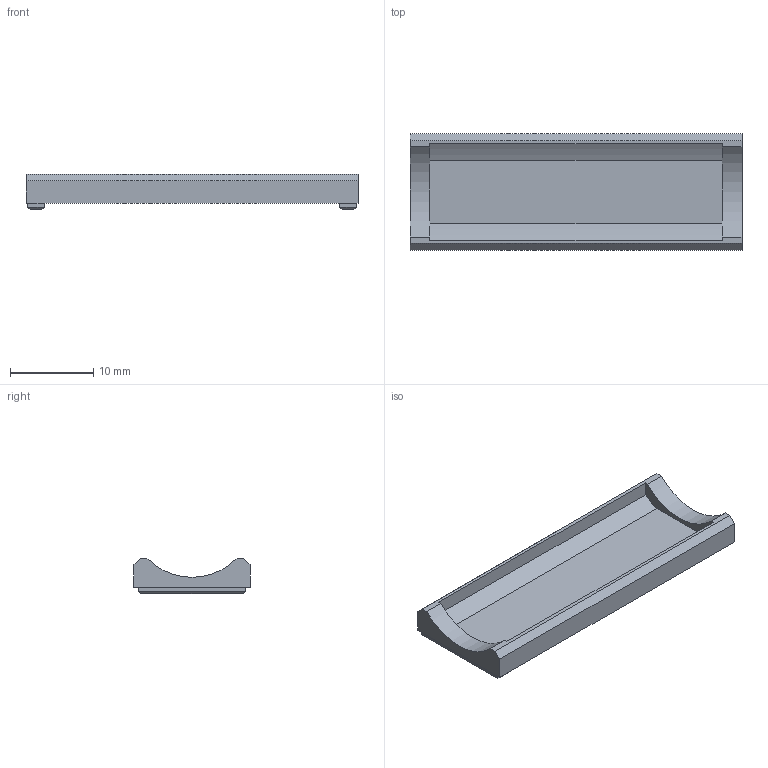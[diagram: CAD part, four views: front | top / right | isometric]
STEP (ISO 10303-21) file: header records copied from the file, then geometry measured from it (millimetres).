
FILE_DESCRIPTION(('STEP AP214'), '1');
FILE_NAME('27.10 íàïðàâëÿþùèå äëÿ ïîäøèïíèêà', '', ('UNSPECIFIED'), ('UNSPECIFIED'), 'C3D Converter', 'C3D Toolkit', '');
FILE_SCHEMA(('AUTOMOTIVE_DESIGN { 1 0 10303 214 3 1 1}'));
Length unit declared in the file: millimetre
Bounding box: 40 x 14 x 4.3 mm (x, y, z)
Volume: 818.8 mm3; surface area: 1635.8 mm2
Topology: 1 solids, 1 shells, 36 faces, 88 edges, 56 vertices
Faces by surface type: plane 32, cylinder 4
Entity records: 1364 total; most frequent: CARTESIAN_POINT 181, ORIENTED_EDGE 176, DIRECTION 170, EDGE_CURVE 88, LINE 80, VECTOR 80, VERTEX_POINT 56, AXIS2_PLACEMENT_3D 45
